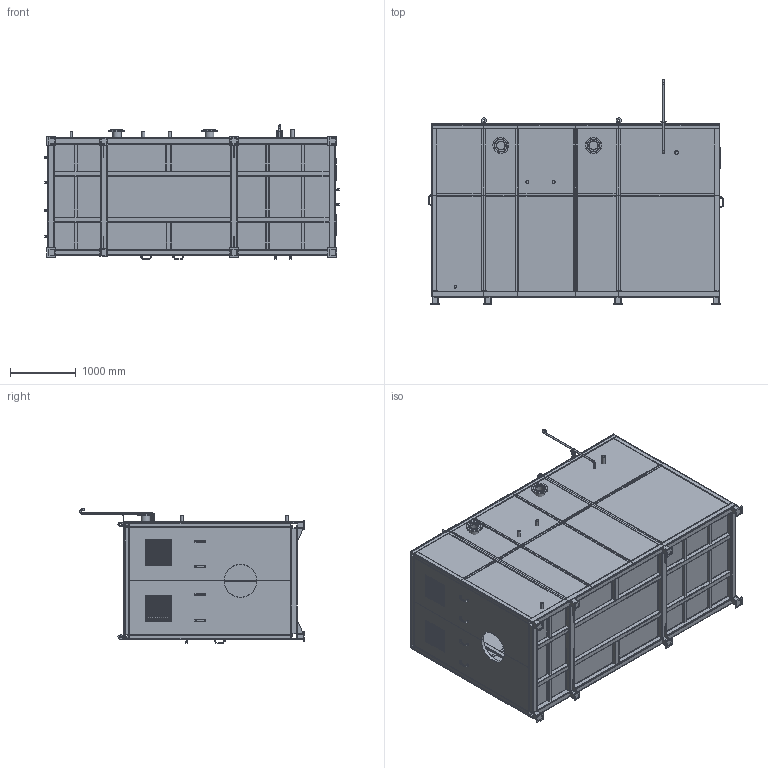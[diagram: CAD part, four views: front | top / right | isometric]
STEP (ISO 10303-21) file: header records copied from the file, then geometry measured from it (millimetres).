
FILE_DESCRIPTION(('STEP AP214'), '1');
FILE_NAME('VS1000-1300 鍕鎀霠罻', '', ('UNSPECIFIED'), ('UNSPECIFIED'), 'C3D Converter', 'C3D Toolkit', '');
FILE_SCHEMA(('AUTOMOTIVE_DESIGN { 1 0 10303 214 3 1 1}'));
Length unit declared in the file: millimetre
Products named in the file (1): VS1000.00.00.000
Bounding box: 4490.34 x 3427.23 x 2052.09 mm (x, y, z)
Volume: 214256133.9 mm3; surface area: 214653454.6 mm2
Topology: 204 solids, 209 shells, 5870 faces, 14129 edges, 8346 vertices
Faces by surface type: plane 3215, cylinder 1484, bspline 1004, sphere 80, torus 52, cone 35
Full cylindrical faces by diameter (mm): 3 x2, 6.2 x20, 8 x3, 9 x2, 12.78 x1, 13 x20, 18 x16, 20.4 x3, 20.752 x4, 20.9 x1, 24 x4, 26 x4, 26.8 x3, 30.5 x1, 32.6 x1, 38.6 x2, 39 x1, 44 x4, 45 x2, 50 x1, 57 x1, 126 x2, 133 x2, 135 x1, 141.5 x1, 245 x1, 250 x1
Entity records: 221463 total; most frequent: CARTESIAN_POINT 64862, ORIENTED_EDGE 27184, DIRECTION 25518, EDGE_CURVE 13598, AXIS2_PLACEMENT_3D 8647, VERTEX_POINT 8342, LINE 8224, VECTOR 8224
